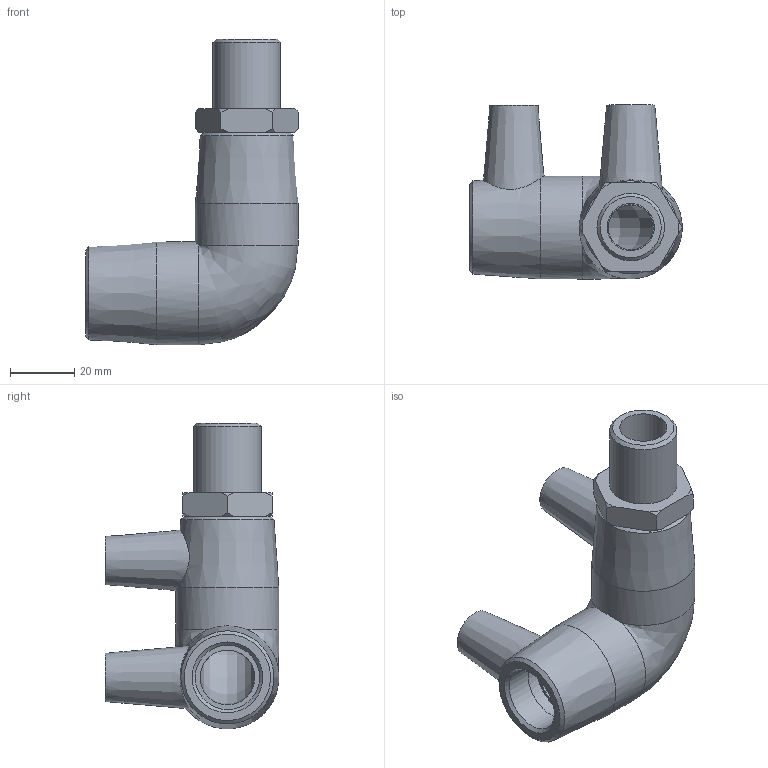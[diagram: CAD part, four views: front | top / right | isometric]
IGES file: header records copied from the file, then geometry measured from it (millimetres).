
Global section: file name: 492504020005.ipt; native system: Autodesk Inventor 2015; preprocessor: unknown; author: KIM; date: 20200202.122328; units: millimetre
Bounding box: 66 x 54 x 94.99 mm (x, y, z)
Volume: 66379.7 mm3; surface area: 23459.2 mm2
Topology: 1 solids, 2 shells, 61 faces, 145 edges, 96 vertices
Faces by surface type: plane 22, cone 19, revolution 12, cylinder 7, bspline 1
Full cylindrical faces by diameter (mm): 4 x2, 20 x2, 20.955 x1, 32 x2
